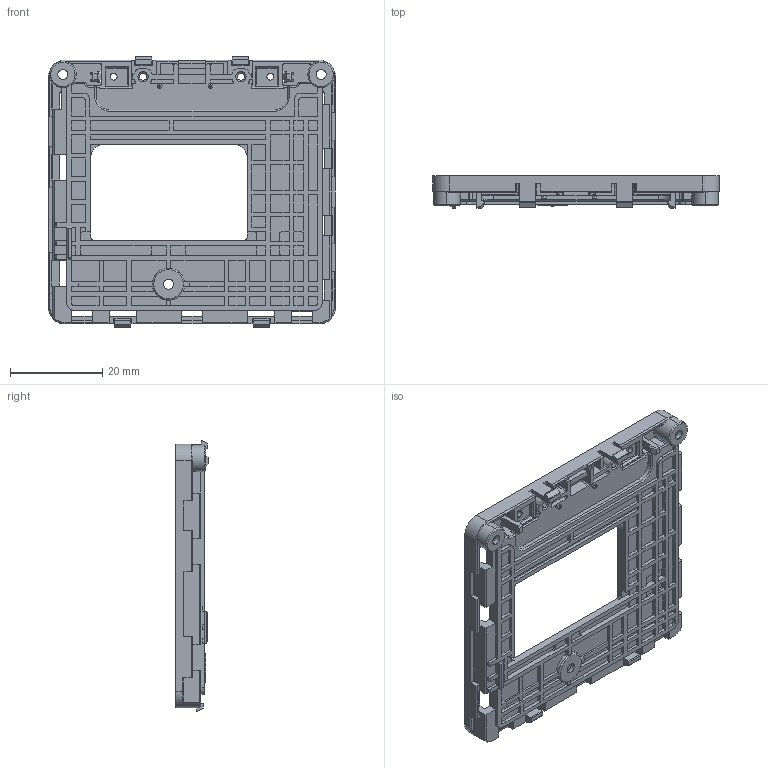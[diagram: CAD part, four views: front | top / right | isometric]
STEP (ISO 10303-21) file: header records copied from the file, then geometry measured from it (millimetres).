
FILE_DESCRIPTION (( 'STEP AP214' ), '1' );
FILE_NAME ('1_Frame_20211119.STEP', '2021-11-19T02:43:49', ( '' ), ( '' ), 'SwSTEP 2.0', 'SolidWorks 2019', '' );
FILE_SCHEMA (( 'AUTOMOTIVE_DESIGN' ));
Length unit declared in the file: millimetre
Products named in the file (1): 1_Frame_20211119
Bounding box: 62.25 x 7.1 x 58.85 mm (x, y, z)
Volume: 6602.9 mm3; surface area: 9750.8 mm2
Topology: 1 solids, 1 shells, 947 faces, 2610 edges, 1689 vertices
Faces by surface type: plane 713, cylinder 170, cone 56, torus 8
Entity records: 29871 total; most frequent: CARTESIAN_POINT 5411, ORIENTED_EDGE 5212, DIRECTION 4874, EDGE_CURVE 2606, LINE 2148, VECTOR 2148, VERTEX_POINT 1689, AXIS2_PLACEMENT_3D 1363
